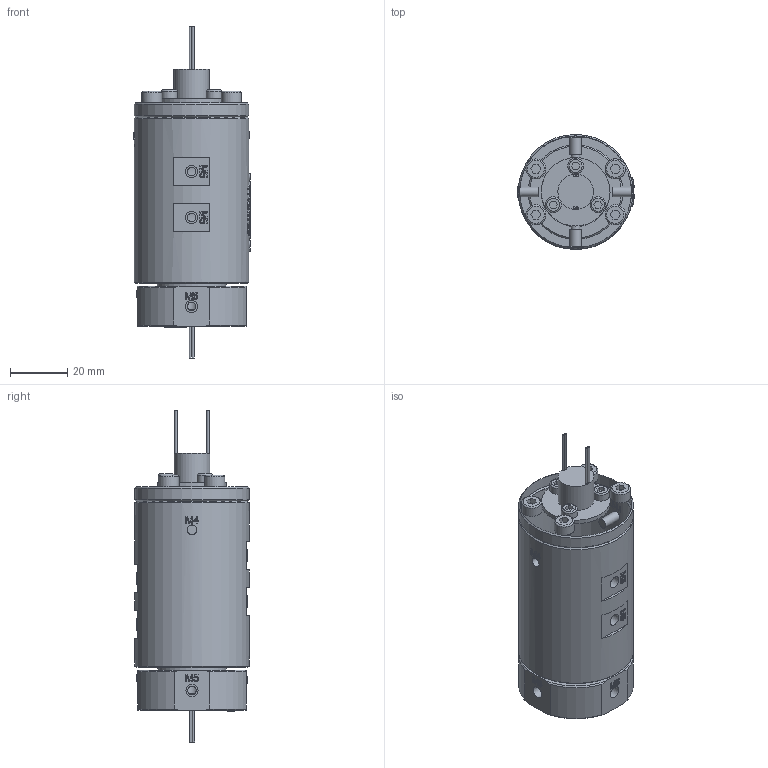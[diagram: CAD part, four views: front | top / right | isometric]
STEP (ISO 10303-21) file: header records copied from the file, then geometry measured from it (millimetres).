
FILE_DESCRIPTION(/* description */ (''),/* implementation_level */ '2;1');
FILE_NAME(/* name */ 'HQ04005-04M.stp',/* time_stamp */ '2025-09-01T15:41:42+08:00',/* author */ (''),/* organization */ (''),/* preprocessor_version */ 'ST-DEVELOPER v16.7',/* originating_system */ 'SIEMENS PLM Software NX 12.0',/* authorisation */ '');
FILE_SCHEMA (('AUTOMOTIVE_DESIGN { 1 0 10303 214 3 1 1 1 }'));
Length unit declared in the file: millimetre
Products named in the file (1): AdmiB44865CDwcuo
Bounding box: 40.68 x 40 x 115.8 mm (x, y, z)
Volume: 97146.2 mm3; surface area: 18425.2 mm2
Topology: 1 solids, 9 shells, 1195 faces, 3205 edges, 2133 vertices
Faces by surface type: plane 572, extrusion 453, cylinder 88, bspline 50, cone 25, torus 7
Full cylindrical faces by diameter (mm): 0.8 x8, 3 x11, 3.4 x9, 4 x8, 4.1 x4, 4.2 x12, 5 x1, 5.5 x3, 6 x1, 7 x4, 12.4 x1, 23.9 x1, 24 x1, 32 x1, 40 x2
Entity records: 44265 total; most frequent: CARTESIAN_POINT 18729, ORIENTED_EDGE 6124, DIRECTION 3251, EDGE_CURVE 3062, B_SPLINE_CURVE_WITH_KNOTS 2448, VERTEX_POINT 2087, EDGE_LOOP 1417, ADVANCED_FACE 1195
